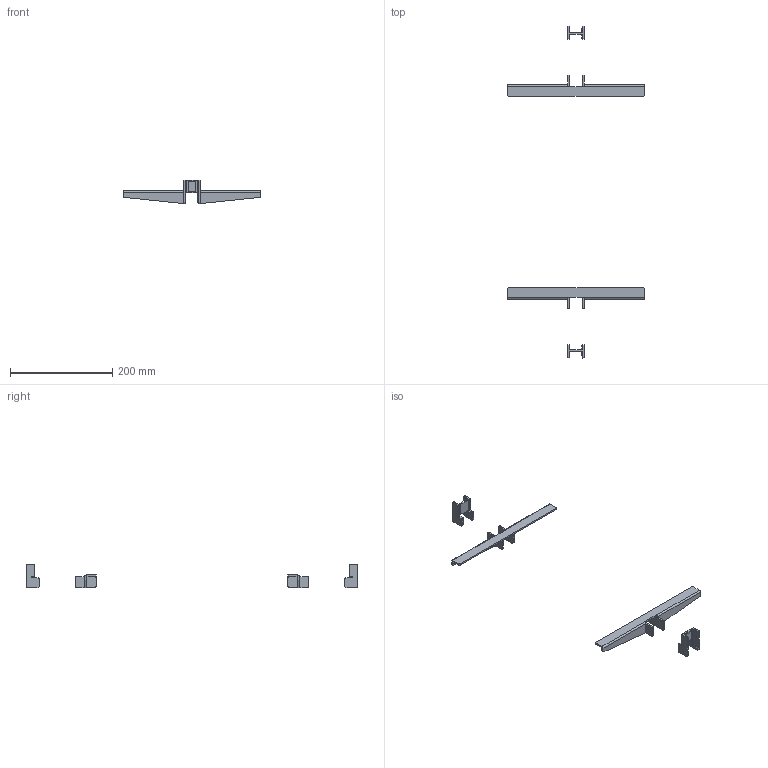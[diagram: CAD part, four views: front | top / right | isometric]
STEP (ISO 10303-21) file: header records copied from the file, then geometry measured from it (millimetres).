
FILE_DESCRIPTION (( 'STEP AP214' ), '1' );
FILE_NAME ('1000258.STEP', '2025-10-01T14:00:20', ( '' ), ( '' ), 'SwSTEP 2.0', 'SolidWorks 2025', '' );
FILE_SCHEMA (( 'AUTOMOTIVE_DESIGN' ));
Length unit declared in the file: millimetre
Products named in the file (1): 1000258
Bounding box: 270 x 650 x 46 mm (x, y, z)
Volume: 87791.5 mm3; surface area: 72426.7 mm2
Topology: 22 solids, 22 shells, 252 faces, 600 edges, 392 vertices
Faces by surface type: plane 196, cylinder 56
Entity records: 7418 total; most frequent: CARTESIAN_POINT 1245, DIRECTION 1220, ORIENTED_EDGE 1200, EDGE_CURVE 600, LINE 486, VECTOR 486, VERTEX_POINT 392, AXIS2_PLACEMENT_3D 367
